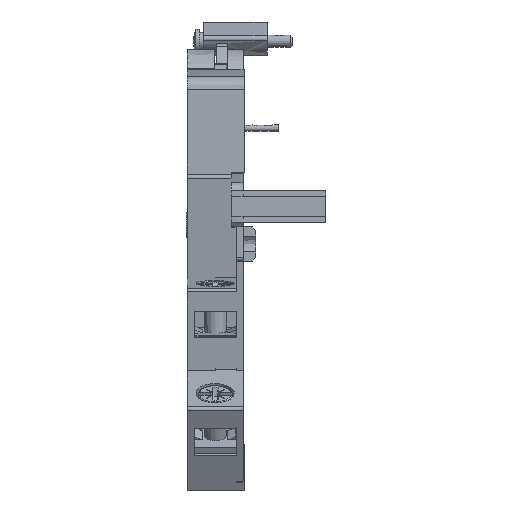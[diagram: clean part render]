
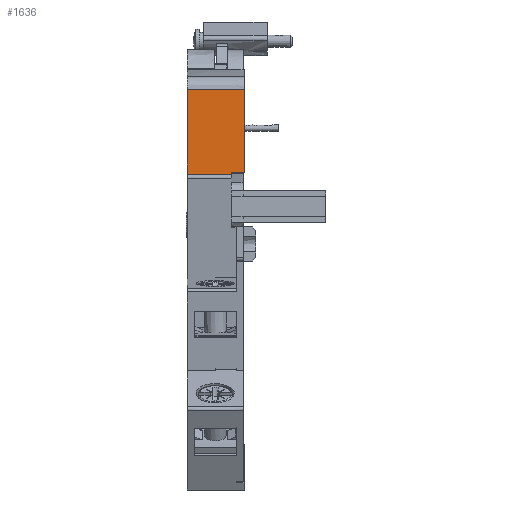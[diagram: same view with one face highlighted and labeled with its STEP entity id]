
A CAD part, left-side view. The second image highlights one B-rep face of the part: STEP entity #1636.
In plain terms, the highlighted free-form (B-spline) face has degree [3, 3] with [4, 4] control points.
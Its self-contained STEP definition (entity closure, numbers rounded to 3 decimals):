
#768=FACE_OUTER_BOUND('',#3504,.T.);
#1636=ADVANCED_FACE('',(#768),#2517,.T.);
#2517=B_SPLINE_SURFACE_WITH_KNOTS('',3,3,((#45034,#45035,#45036,#45037),
(#45038,#45039,#45040,#45041),(#45042,#45043,#45044,#45045),(#45046,#45047,
#45048,#45049)),.UNSPECIFIED.,.F.,.F.,.F.,(4,4),(4,4),(0.,1.),(0.,1.),
 .UNSPECIFIED.);
#3504=EDGE_LOOP('',(#7890,#7891,#7892,#7893,#7894,#7895));
#7890=ORIENTED_EDGE('',*,*,#10407,.T.);
#7891=ORIENTED_EDGE('',*,*,#10208,.T.);
#7892=ORIENTED_EDGE('',*,*,#10207,.T.);
#7893=ORIENTED_EDGE('',*,*,#10211,.T.);
#7894=ORIENTED_EDGE('',*,*,#10409,.F.);
#7895=ORIENTED_EDGE('',*,*,#10410,.F.);
#10207=EDGE_CURVE('',#14411,#14412,#12514,.T.);
#10208=EDGE_CURVE('',#14413,#14411,#12515,.T.);
#10211=EDGE_CURVE('',#14412,#14414,#12518,.T.);
#10407=EDGE_CURVE('',#14541,#14413,#12714,.T.);
#10409=EDGE_CURVE('',#14542,#14414,#12716,.T.);
#10410=EDGE_CURVE('',#14541,#14542,#12717,.T.);
#12514=B_SPLINE_CURVE_WITH_KNOTS('',3,(#42402,#42403,#42404,#42405),
 .UNSPECIFIED.,.F.,.F.,(4,4),(0.,1.),.UNSPECIFIED.);
#12515=B_SPLINE_CURVE_WITH_KNOTS('',3,(#42422,#42423,#42424,#42425),
 .UNSPECIFIED.,.F.,.F.,(4,4),(0.,1.),.UNSPECIFIED.);
#12518=B_SPLINE_CURVE_WITH_KNOTS('',3,(#42455,#42456,#42457,#42458),
 .UNSPECIFIED.,.F.,.F.,(4,4),(0.,1.),.UNSPECIFIED.);
#12714=B_SPLINE_CURVE_WITH_KNOTS('',3,(#44996,#44997,#44998,#44999),
 .UNSPECIFIED.,.F.,.F.,(4,4),(0.,1.),.UNSPECIFIED.);
#12716=B_SPLINE_CURVE_WITH_KNOTS('',3,(#45025,#45026,#45027,#45028),
 .UNSPECIFIED.,.F.,.F.,(4,4),(0.,1.),.UNSPECIFIED.);
#12717=B_SPLINE_CURVE_WITH_KNOTS('',3,(#45030,#45031,#45032,#45033),
 .UNSPECIFIED.,.F.,.F.,(4,4),(0.,1.),.UNSPECIFIED.);
#14411=VERTEX_POINT('',#42396);
#14412=VERTEX_POINT('',#42401);
#14413=VERTEX_POINT('',#42426);
#14414=VERTEX_POINT('',#42453);
#14541=VERTEX_POINT('',#45000);
#14542=VERTEX_POINT('',#45029);
#42396=CARTESIAN_POINT('',(-22.4,-6.95,-12.54));
#42401=CARTESIAN_POINT('',(-22.4,-8.95,-12.54));
#42402=CARTESIAN_POINT('',(-22.4,-6.95,-12.54));
#42403=CARTESIAN_POINT('',(-22.4,-7.617,-12.54));
#42404=CARTESIAN_POINT('',(-22.4,-8.283,-12.54));
#42405=CARTESIAN_POINT('',(-22.4,-8.95,-12.54));
#42422=CARTESIAN_POINT('',(-22.4,-6.95,-12.8));
#42423=CARTESIAN_POINT('',(-22.4,-6.95,-12.713));
#42424=CARTESIAN_POINT('',(-22.4,-6.95,-12.627));
#42425=CARTESIAN_POINT('',(-22.4,-6.95,-12.54));
#42426=CARTESIAN_POINT('',(-22.4,-6.95,-12.8));
#42453=CARTESIAN_POINT('',(-22.4,-8.95,0.527));
#42455=CARTESIAN_POINT('',(-22.4,-8.95,-12.54));
#42456=CARTESIAN_POINT('',(-22.4,-8.95,-8.184));
#42457=CARTESIAN_POINT('',(-22.4,-8.95,-3.829));
#42458=CARTESIAN_POINT('',(-22.4,-8.95,0.527));
#44996=CARTESIAN_POINT('',(-22.4,0.,-12.8));
#44997=CARTESIAN_POINT('',(-22.4,-2.317,-12.8));
#44998=CARTESIAN_POINT('',(-22.4,-4.633,-12.8));
#44999=CARTESIAN_POINT('',(-22.4,-6.95,-12.8));
#45000=CARTESIAN_POINT('',(-22.4,0.,-12.8));
#45025=CARTESIAN_POINT('',(-22.4,0.,0.527));
#45026=CARTESIAN_POINT('',(-22.4,-2.983,0.527));
#45027=CARTESIAN_POINT('',(-22.4,-5.967,0.527));
#45028=CARTESIAN_POINT('',(-22.4,-8.95,0.527));
#45029=CARTESIAN_POINT('',(-22.4,0.,0.527));
#45030=CARTESIAN_POINT('',(-22.4,0.,-12.8));
#45031=CARTESIAN_POINT('',(-22.4,0.,-8.358));
#45032=CARTESIAN_POINT('',(-22.4,0.,-3.915));
#45033=CARTESIAN_POINT('',(-22.4,0.,0.527));
#45034=CARTESIAN_POINT('',(-22.4,0.,0.527));
#45035=CARTESIAN_POINT('',(-22.4,-2.983,0.527));
#45036=CARTESIAN_POINT('',(-22.4,-5.967,0.527));
#45037=CARTESIAN_POINT('',(-22.4,-8.95,0.527));
#45038=CARTESIAN_POINT('',(-22.4,0.,-3.915));
#45039=CARTESIAN_POINT('',(-22.4,-2.983,-3.915));
#45040=CARTESIAN_POINT('',(-22.4,-5.967,-3.915));
#45041=CARTESIAN_POINT('',(-22.4,-8.95,-3.915));
#45042=CARTESIAN_POINT('',(-22.4,0.,-8.358));
#45043=CARTESIAN_POINT('',(-22.4,-2.983,-8.358));
#45044=CARTESIAN_POINT('',(-22.4,-5.967,-8.358));
#45045=CARTESIAN_POINT('',(-22.4,-8.95,-8.358));
#45046=CARTESIAN_POINT('',(-22.4,0.,-12.8));
#45047=CARTESIAN_POINT('',(-22.4,-2.983,-12.8));
#45048=CARTESIAN_POINT('',(-22.4,-5.967,-12.8));
#45049=CARTESIAN_POINT('',(-22.4,-8.95,-12.8));
